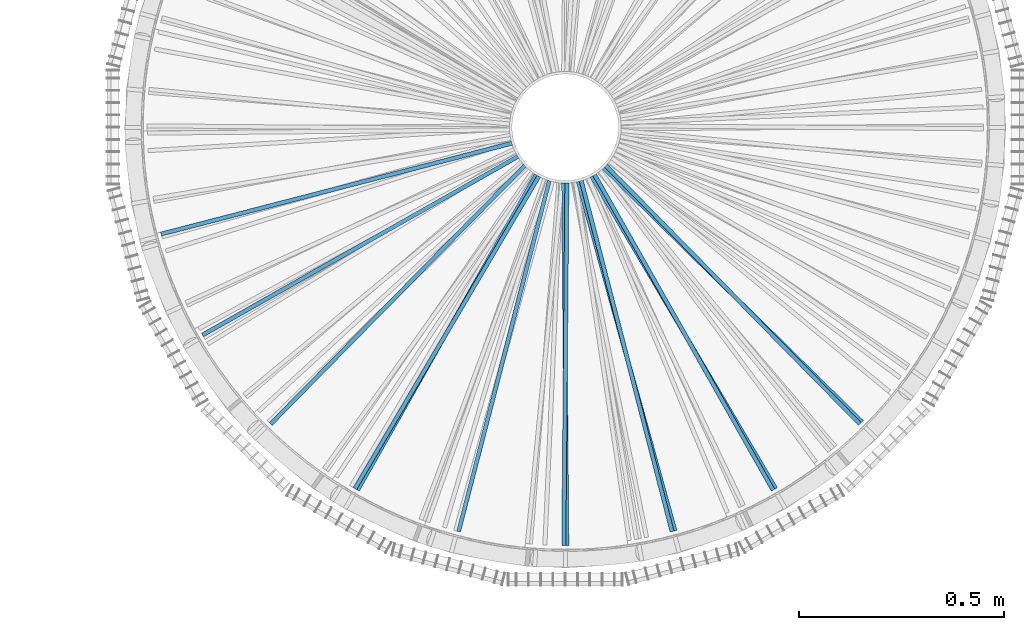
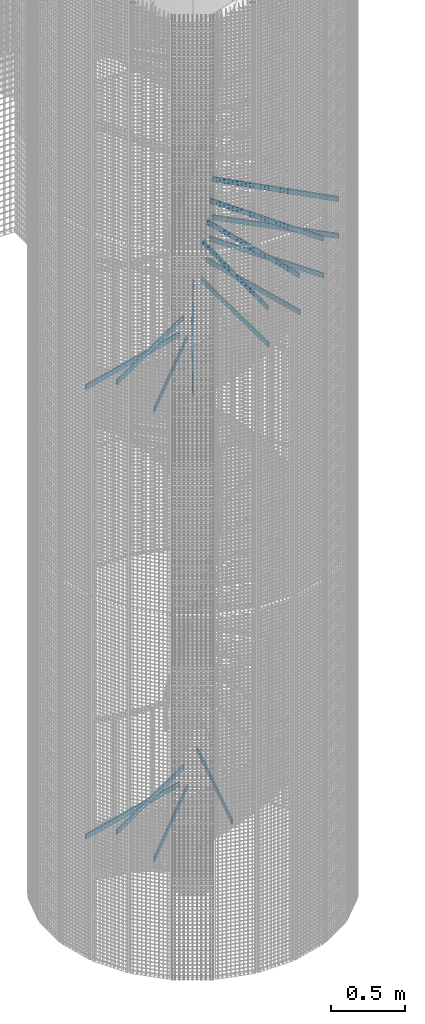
# One storey, part 179 of 1183: 17 beams, 1 element without a shape of its own.
"""IFC2X3 building model written with IfcOpenShell, lengths in millimetres."""

from ifc_helpers import new_model, si_unit, frame, origin_with_axes, origin_2d_with_axis, place, context, subcontext, project, spatial, polyline, rectangle, outline, extrude, boolean, material, type_object, element, aggregate, save


model = new_model("IFC2X3")

# Units and contexts
model_context = context("Model", 3, precision=1e-05, world=origin_with_axes())
body_context = subcontext(model_context, "Body", "Model", "MODEL_VIEW")
ifc_project = project(units=[si_unit("LENGTHUNIT", "METRE", prefix="MILLI"), si_unit("AREAUNIT", "SQUARE_METRE"), si_unit("VOLUMEUNIT", "CUBIC_METRE"), si_unit("MASSUNIT", "GRAM", prefix="KILO"), si_unit("TIMEUNIT", "SECOND"), si_unit("PLANEANGLEUNIT", "RADIAN"), si_unit("SOLIDANGLEUNIT", "STERADIAN"), si_unit("THERMODYNAMICTEMPERATUREUNIT", "DEGREE_CELSIUS"), si_unit("LUMINOUSINTENSITYUNIT", "LUMEN")], contexts=[model_context])

# Site, building, storey
site_placement = place(None, origin_with_axes())
site = spatial("IfcSite", under=ifc_project, at=site_placement, Name="Undefined", CompositionType="ELEMENT")
building_placement = place(site_placement, origin_with_axes())
building = spatial("IfcBuilding", under=site, at=building_placement, Name="Undefined", CompositionType="ELEMENT")
storey_placement = place(building_placement, origin_with_axes())
storey = spatial("IfcBuildingStorey", under=building, at=storey_placement, Name="Undefined", CompositionType="ELEMENT", Elevation=0.0)

# Assembly, beams
assembly_placement = place(storey_placement, origin_with_axes())
assembly = element("IfcElementAssembly", 1, at=assembly_placement, inside=storey, Name="POTEAU", AssemblyPlace="NOTDEFINED", PredefinedType="NOTDEFINED")
ifc_material = material(Name="STEEL/S235JR")
beam_type = type_object("IfcBeamType", Name="PL10*40", PredefinedType="NOTDEFINED")
beam_1_placement = place(assembly_placement, frame((-4.28918262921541, -83.9487882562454, 5075.16), z_axis=(0.0, 0.0, 1.0), x_axis=(0.00846910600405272, -0.99996413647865, 0.0)))
beam_1 = element("IfcBeam", 2, at=beam_1_placement, type_object=beam_type, material=ifc_material, Name="RAIDISSEUR", context=body_context, shape_type="CSG", body=[
    boolean("DIFFERENCE", extrude(rectangle(XDim=10.0, YDim=40.0, at=origin_2d_with_axis()), frame((935.982964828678, -2.59787459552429e-14, -3.63797880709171e-12), z_axis=(-1.0, 0.0, 0.0), x_axis=(0.0, -1.0, 0.0)), (0.0, 0.0, 1.0), 935.98), extrude(outline(polyline([(0.0, 0.0), (30.5663019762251, -4.91127138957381e-11), (60.366242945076, 6.80164206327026), (87.9055294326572, 20.0638634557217), (111.803226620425, 39.1216410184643), (130.861004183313, 63.0193382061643), (144.123225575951, 90.5586246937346), (150.9248676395, 120.358565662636), (150.924867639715, 150.924867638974), (144.123225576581, 180.724808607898), (130.86100418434, 208.264095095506), (111.803226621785, 232.161792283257), (87.9055294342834, 251.219569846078), (60.3662429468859, 264.481791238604), (30.5663019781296, 271.283433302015), (1.90266291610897e-09, 271.28343330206), (-29.7999409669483, 264.481791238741), (-57.3392274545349, 251.219569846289), (-81.2369246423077, 232.161792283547), (-100.294702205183, 208.26409509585), (-113.556923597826, 180.724808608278), (-120.35856566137, 150.92486763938), (-120.358565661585, 120.358565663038), (-113.556923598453, 90.5586246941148), (-100.294702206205, 63.0193382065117), (-81.2369246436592, 39.1216410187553), (-57.3392274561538, 20.0638634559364), (-29.7999409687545, 6.80164206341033), (0.0, 0.0)])), frame((-88.4680432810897, -131.423858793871, -22.5000000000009), z_axis=(0.0, 0.0, 1.0), x_axis=(0.996897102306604, 0.0787157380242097, 0.0)), (0.0, 0.0, 1.0), 45.0)),
])
beam_2_placement = place(assembly_placement, frame((4.28918262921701, -83.9487882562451, 5384.2), z_axis=(0.0, 0.0, 1.0), x_axis=(-0.00846910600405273, -0.99996413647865, 0.0)))
beam_2 = element("IfcBeam", 3, at=beam_2_placement, type_object=beam_type, material=ifc_material, Name="RAIDISSEUR", context=body_context, shape_type="CSG", body=[
    boolean("DIFFERENCE", extrude(rectangle(XDim=10.0, YDim=40.0, at=origin_2d_with_axis()), frame((935.982964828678, -2.59787459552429e-14, -3.63797880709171e-12), z_axis=(-1.0, 0.0, 0.0), x_axis=(0.0, -1.0, 0.0)), (0.0, 0.0, 1.0), 935.98), extrude(outline(polyline([(0.0, 0.0), (30.5663019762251, -4.91127138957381e-11), (60.366242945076, 6.80164206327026), (87.9055294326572, 20.0638634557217), (111.803226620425, 39.1216410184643), (130.861004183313, 63.0193382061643), (144.123225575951, 90.5586246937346), (150.9248676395, 120.358565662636), (150.924867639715, 150.924867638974), (144.123225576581, 180.724808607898), (130.86100418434, 208.264095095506), (111.803226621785, 232.161792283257), (87.9055294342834, 251.219569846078), (60.3662429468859, 264.481791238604), (30.5663019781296, 271.283433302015), (1.90266291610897e-09, 271.28343330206), (-29.7999409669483, 264.481791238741), (-57.3392274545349, 251.219569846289), (-81.2369246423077, 232.161792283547), (-100.294702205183, 208.26409509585), (-113.556923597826, 180.724808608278), (-120.35856566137, 150.92486763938), (-120.358565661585, 120.358565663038), (-113.556923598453, 90.5586246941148), (-100.294702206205, 63.0193382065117), (-81.2369246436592, 39.1216410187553), (-57.3392274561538, 20.0638634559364), (-29.7999409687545, 6.80164206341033), (0.0, 0.0)])), frame((-86.1566959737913, -141.48150018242, -22.4999999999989), z_axis=(0.0, 0.0, 1.0), x_axis=(0.995420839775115, 0.0955894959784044, 0.0)), (0.0, 0.0, 1.0), 45.0)),
])
beam_3_placement = place(assembly_placement, frame((-62.3936675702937, -56.3278473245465, 4611.6), z_axis=(0.0, 0.0, 1.0), x_axis=(-0.701092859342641, -0.713069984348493, 0.0)))
beam_3 = element("IfcBeam", 4, at=beam_3_placement, type_object=beam_type, material=ifc_material, Name="RAIDISSEUR", context=body_context, shape_type="CSG", body=[
    boolean("DIFFERENCE", extrude(rectangle(XDim=10.0, YDim=40.0, at=origin_2d_with_axis()), frame((935.982964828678, -2.59787459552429e-14, -3.63797880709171e-12), z_axis=(-1.0, 0.0, 0.0), x_axis=(0.0, -1.0, 0.0)), (0.0, 0.0, 1.0), 935.98), extrude(outline(polyline([(0.0, 0.0), (30.5663019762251, -4.91127138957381e-11), (60.366242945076, 6.80164206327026), (87.9055294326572, 20.0638634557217), (111.803226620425, 39.1216410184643), (130.861004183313, 63.0193382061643), (144.123225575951, 90.5586246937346), (150.9248676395, 120.358565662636), (150.924867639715, 150.924867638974), (144.123225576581, 180.724808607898), (130.86100418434, 208.264095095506), (111.803226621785, 232.161792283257), (87.9055294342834, 251.219569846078), (60.3662429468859, 264.481791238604), (30.5663019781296, 271.283433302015), (1.90266291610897e-09, 271.28343330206), (-29.7999409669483, 264.481791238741), (-57.3392274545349, 251.219569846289), (-81.2369246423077, 232.161792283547), (-100.294702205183, 208.26409509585), (-113.556923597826, 180.724808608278), (-120.35856566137, 150.92486763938), (-120.358565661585, 120.358565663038), (-113.556923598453, 90.5586246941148), (-100.294702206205, 63.0193382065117), (-81.2369246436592, 39.1216410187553), (-57.3392274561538, 20.0638634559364), (-29.7999409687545, 6.80164206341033), (0.0, 0.0)])), frame((9.33337282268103, -94.6896464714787, -22.5), z_axis=(0.0, 0.0, 1.0), x_axis=(0.649252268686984, 0.760573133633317, 0.0)), (0.0, 0.0, 1.0), 45.0)),
])
beam_4_placement = place(assembly_placement, frame((17.5845129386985, -82.1984248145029, 5229.68), z_axis=(0.0, 0.0, 1.0), x_axis=(0.266990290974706, -0.963699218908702, 0.0)))
beam_4 = element("IfcBeam", 5, at=beam_4_placement, type_object=beam_type, material=ifc_material, Name="RAIDISSEUR", context=body_context, shape_type="CSG", body=[
    boolean("DIFFERENCE", extrude(rectangle(XDim=10.0, YDim=40.0, at=origin_2d_with_axis()), frame((935.982964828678, -2.59787459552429e-14, -3.63797880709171e-12), z_axis=(-1.0, 0.0, 0.0), x_axis=(0.0, -1.0, 0.0)), (0.0, 0.0, 1.0), 935.98), extrude(outline(polyline([(0.0, 0.0), (30.5663019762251, -4.91127138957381e-11), (60.366242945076, 6.80164206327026), (87.9055294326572, 20.0638634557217), (111.803226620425, 39.1216410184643), (130.861004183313, 63.0193382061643), (144.123225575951, 90.5586246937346), (150.9248676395, 120.358565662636), (150.924867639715, 150.924867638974), (144.123225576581, 180.724808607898), (130.86100418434, 208.264095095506), (111.803226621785, 232.161792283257), (87.9055294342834, 251.219569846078), (60.3662429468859, 264.481791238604), (30.5663019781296, 271.283433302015), (1.90266291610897e-09, 271.28343330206), (-29.7999409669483, 264.481791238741), (-57.3392274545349, 251.219569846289), (-81.2369246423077, 232.161792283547), (-100.294702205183, 208.26409509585), (-113.556923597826, 180.724808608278), (-120.35856566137, 150.92486763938), (-120.358565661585, 120.358565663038), (-113.556923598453, 90.5586246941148), (-100.294702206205, 63.0193382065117), (-81.2369246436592, 39.1216410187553), (-57.3392274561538, 20.0638634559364), (-29.7999409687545, 6.80164206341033), (0.0, 0.0)])), frame((-123.621805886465, -125.595478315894, -22.5), z_axis=(0.0, 0.0, 1.0), x_axis=(0.983301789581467, -0.181982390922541, 0.0)), (0.0, 0.0, 1.0), 45.0)),
])
beam_5_placement = place(assembly_placement, frame((-70.5571919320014, -45.6889352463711, 4766.12), z_axis=(0.0, 0.0, 1.0), x_axis=(-0.870228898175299, -0.492647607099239, 0.0)))
beam_5 = element("IfcBeam", 6, at=beam_5_placement, type_object=beam_type, material=ifc_material, Name="RAIDISSEUR", context=body_context, shape_type="CSG", body=[
    boolean("DIFFERENCE", extrude(rectangle(XDim=10.0, YDim=40.0, at=origin_2d_with_axis()), frame((935.982964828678, -2.59787459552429e-14, -3.63797880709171e-12), z_axis=(-1.0, 0.0, 0.0), x_axis=(0.0, -1.0, 0.0)), (0.0, 0.0, 1.0), 935.98), extrude(outline(polyline([(0.0, 0.0), (30.5663019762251, -4.91127138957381e-11), (60.366242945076, 6.80164206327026), (87.9055294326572, 20.0638634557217), (111.803226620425, 39.1216410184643), (130.861004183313, 63.0193382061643), (144.123225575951, 90.5586246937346), (150.9248676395, 120.358565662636), (150.924867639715, 150.924867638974), (144.123225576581, 180.724808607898), (130.86100418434, 208.264095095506), (111.803226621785, 232.161792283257), (87.9055294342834, 251.219569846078), (60.3662429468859, 264.481791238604), (30.5663019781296, 271.283433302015), (1.90266291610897e-09, 271.28343330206), (-29.7999409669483, 264.481791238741), (-57.3392274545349, 251.219569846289), (-81.2369246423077, 232.161792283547), (-100.294702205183, 208.26409509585), (-113.556923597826, 180.724808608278), (-120.35856566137, 150.92486763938), (-120.358565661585, 120.358565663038), (-113.556923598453, 90.5586246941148), (-100.294702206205, 63.0193382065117), (-81.2369246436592, 39.1216410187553), (-57.3392274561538, 20.0638634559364), (-29.7999409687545, 6.80164206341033), (0.0, 0.0)])), frame((33.1633723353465, -75.1869204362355, -22.5), z_axis=(0.0, 0.0, 1.0), x_axis=(0.414927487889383, 0.909854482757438, 0.0)), (0.0, 0.0, 1.0), 45.0)),
])
beam_6_placement = place(assembly_placement, frame((-79.9781805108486, -25.870577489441, 903.12), z_axis=(0.0, 0.0, 1.0), x_axis=(-0.968083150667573, -0.250629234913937, 0.0)))
beam_6 = element("IfcBeam", 7, at=beam_6_placement, type_object=beam_type, material=ifc_material, Name="RAIDISSEUR", context=body_context, shape_type="CSG", body=[
    boolean("DIFFERENCE", extrude(rectangle(XDim=10.0, YDim=40.0, at=origin_2d_with_axis()), frame((935.982964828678, -2.59787459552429e-14, -3.63797880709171e-12), z_axis=(-1.0, 0.0, 0.0), x_axis=(0.0, -1.0, 0.0)), (0.0, 0.0, 1.0), 935.98), extrude(outline(polyline([(0.0, 0.0), (30.5663019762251, -4.91127138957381e-11), (60.366242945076, 6.80164206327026), (87.9055294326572, 20.0638634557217), (111.803226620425, 39.1216410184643), (130.861004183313, 63.0193382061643), (144.123225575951, 90.5586246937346), (150.9248676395, 120.358565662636), (150.924867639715, 150.924867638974), (144.123225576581, 180.724808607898), (130.86100418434, 208.264095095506), (111.803226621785, 232.161792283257), (87.9055294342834, 251.219569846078), (60.3662429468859, 264.481791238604), (30.5663019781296, 271.283433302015), (1.90266291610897e-09, 271.28343330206), (-29.7999409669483, 264.481791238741), (-57.3392274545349, 251.219569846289), (-81.2369246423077, 232.161792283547), (-100.294702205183, 208.26409509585), (-113.556923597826, 180.724808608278), (-120.35856566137, 150.92486763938), (-120.358565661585, 120.358565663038), (-113.556923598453, 90.5586246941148), (-100.294702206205, 63.0193382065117), (-81.2369246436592, 39.1216410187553), (-57.3392274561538, 20.0638634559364), (-29.7999409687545, 6.80164206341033), (0.0, 0.0)])), frame((47.3399242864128, -42.4946825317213, -22.4999999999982), z_axis=(0.0, 0.0, 1.0), x_axis=(0.165301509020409, 0.986243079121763, 0.0)), (0.0, 0.0, 1.0), 45.0)),
])
beam_7_placement = place(assembly_placement, frame((-70.5571919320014, -45.6889352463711, 1057.64), z_axis=(0.0, 0.0, 1.0), x_axis=(-0.870228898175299, -0.492647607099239, 0.0)))
beam_7 = element("IfcBeam", 8, at=beam_7_placement, type_object=beam_type, material=ifc_material, Name="RAIDISSEUR", context=body_context, shape_type="CSG", body=[
    boolean("DIFFERENCE", extrude(rectangle(XDim=10.0, YDim=40.0, at=origin_2d_with_axis()), frame((935.982964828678, -2.59787459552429e-14, -3.63797880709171e-12), z_axis=(-1.0, 0.0, 0.0), x_axis=(0.0, -1.0, 0.0)), (0.0, 0.0, 1.0), 935.98), extrude(outline(polyline([(0.0, 0.0), (30.5663019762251, -4.91127138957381e-11), (60.366242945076, 6.80164206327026), (87.9055294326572, 20.0638634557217), (111.803226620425, 39.1216410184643), (130.861004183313, 63.0193382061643), (144.123225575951, 90.5586246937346), (150.9248676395, 120.358565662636), (150.924867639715, 150.924867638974), (144.123225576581, 180.724808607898), (130.86100418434, 208.264095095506), (111.803226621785, 232.161792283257), (87.9055294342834, 251.219569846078), (60.3662429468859, 264.481791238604), (30.5663019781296, 271.283433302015), (1.90266291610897e-09, 271.28343330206), (-29.7999409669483, 264.481791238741), (-57.3392274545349, 251.219569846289), (-81.2369246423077, 232.161792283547), (-100.294702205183, 208.26409509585), (-113.556923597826, 180.724808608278), (-120.35856566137, 150.92486763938), (-120.358565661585, 120.358565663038), (-113.556923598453, 90.5586246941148), (-100.294702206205, 63.0193382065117), (-81.2369246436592, 39.1216410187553), (-57.3392274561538, 20.0638634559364), (-29.7999409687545, 6.80164206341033), (0.0, 0.0)])), frame((33.1633723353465, -75.1869204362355, -22.5), z_axis=(0.0, 0.0, 1.0), x_axis=(0.414927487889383, 0.909854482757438, 0.0)), (0.0, 0.0, 1.0), 45.0)),
])
beam_8_placement = place(assembly_placement, frame((-25.8705774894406, -79.978180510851, 1212.16), z_axis=(0.0, 0.0, 1.0), x_axis=(-0.250629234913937, -0.968083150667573, 0.0)))
beam_8 = element("IfcBeam", 9, at=beam_8_placement, type_object=beam_type, material=ifc_material, Name="RAIDISSEUR", context=body_context, shape_type="CSG", body=[
    boolean("DIFFERENCE", extrude(rectangle(XDim=10.0, YDim=40.0, at=origin_2d_with_axis()), frame((935.982964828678, -2.59787459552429e-14, -3.63797880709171e-12), z_axis=(-1.0, 0.0, 0.0), x_axis=(0.0, -1.0, 0.0)), (0.0, 0.0, 1.0), 935.98), extrude(outline(polyline([(0.0, 0.0), (30.5663019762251, -4.91127138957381e-11), (60.366242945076, 6.80164206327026), (87.9055294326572, 20.0638634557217), (111.803226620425, 39.1216410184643), (130.861004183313, 63.0193382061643), (144.123225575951, 90.5586246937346), (150.9248676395, 120.358565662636), (150.924867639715, 150.924867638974), (144.123225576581, 180.724808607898), (130.86100418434, 208.264095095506), (111.803226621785, 232.161792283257), (87.9055294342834, 251.219569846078), (60.3662429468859, 264.481791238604), (30.5663019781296, 271.283433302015), (1.90266291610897e-09, 271.28343330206), (-29.7999409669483, 264.481791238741), (-57.3392274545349, 251.219569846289), (-81.2369246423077, 232.161792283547), (-100.294702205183, 208.26409509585), (-113.556923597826, 180.724808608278), (-120.35856566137, 150.92486763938), (-120.358565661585, 120.358565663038), (-113.556923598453, 90.5586246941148), (-100.294702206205, 63.0193382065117), (-81.2369246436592, 39.1216410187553), (-57.3392274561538, 20.0638634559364), (-29.7999409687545, 6.80164206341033), (0.0, 0.0)])), frame((-53.0036201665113, -127.955178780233, -22.5), z_axis=(0.0, 0.0, 1.0), x_axis=(0.942555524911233, 0.33404952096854, 0.0)), (0.0, 0.0, 1.0), 45.0)),
])
beam_9_placement = place(assembly_placement, frame((56.3278473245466, -62.3936675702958, 5538.72), z_axis=(0.0, 0.0, 1.0), x_axis=(0.713069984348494, -0.70109285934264, 0.0)))
beam_9 = element("IfcBeam", 10, at=beam_9_placement, type_object=beam_type, material=ifc_material, Name="RAIDISSEUR", context=body_context, shape_type="CSG", body=[
    boolean("DIFFERENCE", extrude(rectangle(XDim=10.0, YDim=40.0, at=origin_2d_with_axis()), frame((935.982964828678, -2.59787459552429e-14, -3.63797880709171e-12), z_axis=(-1.0, 0.0, 0.0), x_axis=(0.0, -1.0, 0.0)), (0.0, 0.0, 1.0), 935.98), extrude(outline(polyline([(0.0, 0.0), (30.5663019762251, -4.91127138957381e-11), (60.366242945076, 6.80164206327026), (87.9055294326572, 20.0638634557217), (111.803226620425, 39.1216410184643), (130.861004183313, 63.0193382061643), (144.123225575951, 90.5586246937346), (150.9248676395, 120.358565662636), (150.924867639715, 150.924867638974), (144.123225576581, 180.724808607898), (130.86100418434, 208.264095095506), (111.803226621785, 232.161792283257), (87.9055294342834, 251.219569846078), (60.3662429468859, 264.481791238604), (30.5663019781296, 271.283433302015), (1.90266291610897e-09, 271.28343330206), (-29.7999409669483, 264.481791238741), (-57.3392274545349, 251.219569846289), (-81.2369246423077, 232.161792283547), (-100.294702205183, 208.26409509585), (-113.556923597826, 180.724808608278), (-120.35856566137, 150.92486763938), (-120.358565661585, 120.358565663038), (-113.556923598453, 90.5586246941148), (-100.294702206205, 63.0193382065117), (-81.2369246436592, 39.1216410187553), (-57.3392274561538, 20.0638634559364), (-29.7999409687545, 6.80164206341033), (0.0, 0.0)])), frame((-183.599098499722, -88.2428248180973, -22.5), z_axis=(0.0, 0.0, 1.0), x_axis=(0.760573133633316, -0.649252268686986, 0.0)), (0.0, 0.0, 1.0), 45.0)),
])
beam_10_placement = place(assembly_placement, frame((-79.9781805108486, -25.8705774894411, 4611.6), z_axis=(0.0, 0.0, 1.0), x_axis=(-0.968083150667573, -0.250629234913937, 0.0)))
beam_10 = element("IfcBeam", 11, at=beam_10_placement, type_object=beam_type, material=ifc_material, Name="RAIDISSEUR", context=body_context, shape_type="CSG", body=[
    boolean("DIFFERENCE", extrude(rectangle(XDim=10.0, YDim=40.0, at=origin_2d_with_axis()), frame((935.982964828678, -2.59787459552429e-14, -3.63797880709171e-12), z_axis=(-1.0, 0.0, 0.0), x_axis=(0.0, -1.0, 0.0)), (0.0, 0.0, 1.0), 935.98), extrude(outline(polyline([(0.0, 0.0), (30.5663019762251, -4.91127138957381e-11), (60.366242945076, 6.80164206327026), (87.9055294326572, 20.0638634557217), (111.803226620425, 39.1216410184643), (130.861004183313, 63.0193382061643), (144.123225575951, 90.5586246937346), (150.9248676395, 120.358565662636), (150.924867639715, 150.924867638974), (144.123225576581, 180.724808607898), (130.86100418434, 208.264095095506), (111.803226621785, 232.161792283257), (87.9055294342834, 251.219569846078), (60.3662429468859, 264.481791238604), (30.5663019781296, 271.283433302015), (1.90266291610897e-09, 271.28343330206), (-29.7999409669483, 264.481791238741), (-57.3392274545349, 251.219569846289), (-81.2369246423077, 232.161792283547), (-100.294702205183, 208.26409509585), (-113.556923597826, 180.724808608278), (-120.35856566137, 150.92486763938), (-120.358565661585, 120.358565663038), (-113.556923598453, 90.5586246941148), (-100.294702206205, 63.0193382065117), (-81.2369246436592, 39.1216410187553), (-57.3392274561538, 20.0638634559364), (-29.7999409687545, 6.80164206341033), (0.0, 0.0)])), frame((47.3399242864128, -42.4946825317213, -22.4999999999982), z_axis=(0.0, 0.0, 1.0), x_axis=(0.165301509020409, 0.986243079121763, 0.0)), (0.0, 0.0, 1.0), 45.0)),
])
beam_11_placement = place(assembly_placement, frame((38.2598530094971, -74.8463745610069, 5384.2), z_axis=(0.0, 0.0, 1.0), x_axis=(0.507316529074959, -0.861759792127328, 0.0)))
beam_11 = element("IfcBeam", 12, at=beam_11_placement, type_object=beam_type, material=ifc_material, Name="RAIDISSEUR", context=body_context, shape_type="CSG", body=[
    boolean("DIFFERENCE", extrude(rectangle(XDim=10.0, YDim=40.0, at=origin_2d_with_axis()), frame((935.982964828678, -2.59787459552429e-14, -3.63797880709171e-12), z_axis=(-1.0, 0.0, 0.0), x_axis=(0.0, -1.0, 0.0)), (0.0, 0.0, 1.0), 935.98), extrude(outline(polyline([(0.0, 0.0), (30.5663019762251, -4.91127138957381e-11), (60.366242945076, 6.80164206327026), (87.9055294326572, 20.0638634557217), (111.803226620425, 39.1216410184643), (130.861004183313, 63.0193382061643), (144.123225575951, 90.5586246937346), (150.9248676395, 120.358565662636), (150.924867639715, 150.924867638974), (144.123225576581, 180.724808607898), (130.86100418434, 208.264095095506), (111.803226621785, 232.161792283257), (87.9055294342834, 251.219569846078), (60.3662429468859, 264.481791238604), (30.5663019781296, 271.283433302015), (1.90266291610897e-09, 271.28343330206), (-29.7999409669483, 264.481791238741), (-57.3392274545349, 251.219569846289), (-81.2369246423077, 232.161792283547), (-100.294702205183, 208.26409509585), (-113.556923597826, 180.724808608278), (-120.35856566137, 150.92486763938), (-120.358565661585, 120.358565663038), (-113.556923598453, 90.5586246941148), (-100.294702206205, 63.0193382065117), (-81.2369246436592, 39.1216410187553), (-57.3392274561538, 20.0638634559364), (-29.7999409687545, 6.80164206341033), (0.0, 0.0)])), frame((-156.069237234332, -110.867231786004, -22.5), z_axis=(0.0, 0.0, 1.0), x_axis=(0.902696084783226, -0.430278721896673, 0.0)), (0.0, 0.0, 1.0), 45.0)),
])
beam_12_placement = place(assembly_placement, frame((-38.2598530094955, -74.8463745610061, 5075.16), z_axis=(0.0, 0.0, 1.0), x_axis=(-0.50731652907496, -0.861759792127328, 0.0)))
beam_12 = element("IfcBeam", 13, at=beam_12_placement, type_object=beam_type, material=ifc_material, Name="RAIDISSEUR", context=body_context, shape_type="CSG", body=[
    boolean("DIFFERENCE", extrude(rectangle(XDim=10.0, YDim=40.0, at=origin_2d_with_axis()), frame((935.982964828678, -2.59787459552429e-14, -3.63797880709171e-12), z_axis=(-1.0, 0.0, 0.0), x_axis=(0.0, -1.0, 0.0)), (0.0, 0.0, 1.0), 935.98), extrude(outline(polyline([(0.0, 0.0), (30.5663019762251, -4.91127138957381e-11), (60.366242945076, 6.80164206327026), (87.9055294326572, 20.0638634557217), (111.803226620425, 39.1216410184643), (130.861004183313, 63.0193382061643), (144.123225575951, 90.5586246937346), (150.9248676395, 120.358565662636), (150.924867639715, 150.924867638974), (144.123225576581, 180.724808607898), (130.86100418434, 208.264095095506), (111.803226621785, 232.161792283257), (87.9055294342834, 251.219569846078), (60.3662429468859, 264.481791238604), (30.5663019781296, 271.283433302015), (1.90266291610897e-09, 271.28343330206), (-29.7999409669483, 264.481791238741), (-57.3392274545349, 251.219569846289), (-81.2369246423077, 232.161792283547), (-100.294702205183, 208.26409509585), (-113.556923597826, 180.724808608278), (-120.35856566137, 150.92486763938), (-120.358565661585, 120.358565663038), (-113.556923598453, 90.5586246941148), (-100.294702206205, 63.0193382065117), (-81.2369246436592, 39.1216410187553), (-57.3392274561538, 20.0638634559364), (-29.7999409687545, 6.80164206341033), (0.0, 0.0)])), frame((-17.6148722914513, -124.320068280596, -22.5), z_axis=(0.0, 0.0, 1.0), x_axis=(0.814264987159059, 0.580493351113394, 0.0)), (0.0, 0.0, 1.0), 45.0)),
])
beam_13_placement = place(assembly_placement, frame((-62.3936675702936, -56.3278473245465, 903.12), z_axis=(0.0, 0.0, 1.0), x_axis=(-0.701092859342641, -0.713069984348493, 0.0)))
beam_13 = element("IfcBeam", 14, at=beam_13_placement, type_object=beam_type, material=ifc_material, Name="RAIDISSEUR", context=body_context, shape_type="CSG", body=[
    boolean("DIFFERENCE", extrude(rectangle(XDim=10.0, YDim=40.0, at=origin_2d_with_axis()), frame((935.982964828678, -2.59787459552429e-14, -3.63797880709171e-12), z_axis=(-1.0, 0.0, 0.0), x_axis=(0.0, -1.0, 0.0)), (0.0, 0.0, 1.0), 935.98), extrude(outline(polyline([(0.0, 0.0), (30.5663019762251, -4.91127138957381e-11), (60.366242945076, 6.80164206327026), (87.9055294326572, 20.0638634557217), (111.803226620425, 39.1216410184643), (130.861004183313, 63.0193382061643), (144.123225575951, 90.5586246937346), (150.9248676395, 120.358565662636), (150.924867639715, 150.924867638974), (144.123225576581, 180.724808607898), (130.86100418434, 208.264095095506), (111.803226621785, 232.161792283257), (87.9055294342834, 251.219569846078), (60.3662429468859, 264.481791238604), (30.5663019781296, 271.283433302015), (1.90266291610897e-09, 271.28343330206), (-29.7999409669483, 264.481791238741), (-57.3392274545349, 251.219569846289), (-81.2369246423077, 232.161792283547), (-100.294702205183, 208.26409509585), (-113.556923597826, 180.724808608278), (-120.35856566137, 150.92486763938), (-120.358565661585, 120.358565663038), (-113.556923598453, 90.5586246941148), (-100.294702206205, 63.0193382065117), (-81.2369246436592, 39.1216410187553), (-57.3392274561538, 20.0638634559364), (-29.7999409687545, 6.80164206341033), (0.0, 0.0)])), frame((9.33337282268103, -94.6896464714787, -22.5), z_axis=(0.0, 0.0, 1.0), x_axis=(0.649252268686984, 0.760573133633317, 0.0)), (0.0, 0.0, 1.0), 45.0)),
])
beam_14_placement = place(assembly_placement, frame((45.6889352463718, -70.5571919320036, 5693.24), z_axis=(0.0, 0.0, 1.0), x_axis=(0.492647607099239, -0.870228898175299, 0.0)))
beam_14 = element("IfcBeam", 15, at=beam_14_placement, type_object=beam_type, material=ifc_material, Name="RAIDISSEUR", context=body_context, shape_type="CSG", body=[
    boolean("DIFFERENCE", extrude(rectangle(XDim=10.0, YDim=40.0, at=origin_2d_with_axis()), frame((935.982964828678, -2.59787459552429e-14, -3.63797880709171e-12), z_axis=(-1.0, 0.0, 0.0), x_axis=(0.0, -1.0, 0.0)), (0.0, 0.0, 1.0), 935.98), extrude(outline(polyline([(0.0, 0.0), (30.5663019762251, -4.91127138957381e-11), (60.366242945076, 6.80164206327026), (87.9055294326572, 20.0638634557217), (111.803226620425, 39.1216410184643), (130.861004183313, 63.0193382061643), (144.123225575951, 90.5586246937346), (150.9248676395, 120.358565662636), (150.924867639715, 150.924867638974), (144.123225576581, 180.724808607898), (130.86100418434, 208.264095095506), (111.803226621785, 232.161792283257), (87.9055294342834, 251.219569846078), (60.3662429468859, 264.481791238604), (30.5663019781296, 271.283433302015), (1.90266291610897e-09, 271.28343330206), (-29.7999409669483, 264.481791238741), (-57.3392274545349, 251.219569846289), (-81.2369246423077, 232.161792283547), (-100.294702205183, 208.26409509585), (-113.556923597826, 180.724808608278), (-120.35856566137, 150.92486763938), (-120.358565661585, 120.358565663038), (-113.556923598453, 90.5586246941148), (-100.294702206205, 63.0193382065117), (-81.2369246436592, 39.1216410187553), (-57.3392274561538, 20.0638634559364), (-29.7999409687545, 6.80164206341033), (0.0, 0.0)])), frame((-154.096372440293, -122.072824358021, -22.5000000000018), z_axis=(0.0, 0.0, 1.0), x_axis=(0.909854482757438, -0.414927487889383, 0.0)), (0.0, 0.0, 1.0), 45.0)),
])
beam_15_placement = place(assembly_placement, frame((-45.6889352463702, -70.5571919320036, 4766.12), z_axis=(0.0, 0.0, 1.0), x_axis=(-0.492647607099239, -0.870228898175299, 0.0)))
beam_15 = element("IfcBeam", 16, at=beam_15_placement, type_object=beam_type, material=ifc_material, Name="RAIDISSEUR", context=body_context, shape_type="CSG", body=[
    boolean("DIFFERENCE", extrude(rectangle(XDim=10.0, YDim=40.0, at=origin_2d_with_axis()), frame((935.982964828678, -2.59787459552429e-14, -3.63797880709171e-12), z_axis=(-1.0, 0.0, 0.0), x_axis=(0.0, -1.0, 0.0)), (0.0, 0.0, 1.0), 935.98), extrude(outline(polyline([(0.0, 0.0), (30.5663019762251, -4.91127138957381e-11), (60.366242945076, 6.80164206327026), (87.9055294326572, 20.0638634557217), (111.803226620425, 39.1216410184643), (130.861004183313, 63.0193382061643), (144.123225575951, 90.5586246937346), (150.9248676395, 120.358565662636), (150.924867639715, 150.924867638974), (144.123225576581, 180.724808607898), (130.86100418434, 208.264095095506), (111.803226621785, 232.161792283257), (87.9055294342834, 251.219569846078), (60.3662429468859, 264.481791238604), (30.5663019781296, 271.283433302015), (1.90266291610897e-09, 271.28343330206), (-29.7999409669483, 264.481791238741), (-57.3392274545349, 251.219569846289), (-81.2369246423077, 232.161792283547), (-100.294702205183, 208.26409509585), (-113.556923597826, 180.724808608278), (-120.35856566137, 150.92486763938), (-120.358565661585, 120.358565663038), (-113.556923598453, 90.5586246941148), (-100.294702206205, 63.0193382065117), (-81.2369246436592, 39.1216410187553), (-57.3392274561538, 20.0638634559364), (-29.7999409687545, 6.80164206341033), (0.0, 0.0)])), frame((-19.6453784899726, -115.425823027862, -22.5), z_axis=(0.0, 0.0, 1.0), x_axis=(0.823980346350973, 0.56661838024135, 0.0)), (0.0, 0.0, 1.0), 45.0)),
])
beam_16_placement = place(assembly_placement, frame((25.8705774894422, -79.9781805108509, 5538.72), z_axis=(0.0, 0.0, 1.0), x_axis=(0.250629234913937, -0.968083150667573, 0.0)))
beam_16 = element("IfcBeam", 17, at=beam_16_placement, type_object=beam_type, material=ifc_material, Name="RAIDISSEUR", context=body_context, shape_type="CSG", body=[
    boolean("DIFFERENCE", extrude(rectangle(XDim=10.0, YDim=40.0, at=origin_2d_with_axis()), frame((935.982964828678, -2.59787459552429e-14, -3.63797880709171e-12), z_axis=(-1.0, 0.0, 0.0), x_axis=(0.0, -1.0, 0.0)), (0.0, 0.0, 1.0), 935.98), extrude(outline(polyline([(0.0, 0.0), (30.5663019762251, -4.91127138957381e-11), (60.366242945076, 6.80164206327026), (87.9055294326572, 20.0638634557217), (111.803226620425, 39.1216410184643), (130.861004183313, 63.0193382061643), (144.123225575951, 90.5586246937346), (150.9248676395, 120.358565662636), (150.924867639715, 150.924867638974), (144.123225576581, 180.724808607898), (130.86100418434, 208.264095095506), (111.803226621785, 232.161792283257), (87.9055294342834, 251.219569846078), (60.3662429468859, 264.481791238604), (30.5663019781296, 271.283433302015), (1.90266291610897e-09, 271.28343330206), (-29.7999409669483, 264.481791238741), (-57.3392274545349, 251.219569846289), (-81.2369246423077, 232.161792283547), (-100.294702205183, 208.26409509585), (-113.556923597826, 180.724808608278), (-120.35856566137, 150.92486763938), (-120.358565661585, 120.358565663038), (-113.556923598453, 90.5586246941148), (-100.294702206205, 63.0193382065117), (-81.2369246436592, 39.1216410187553), (-57.3392274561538, 20.0638634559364), (-29.7999409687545, 6.80164206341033), (0.0, 0.0)])), frame((-121.404134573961, -136.249376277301, -22.5), z_axis=(0.0, 0.0, 1.0), x_axis=(0.986243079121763, -0.165301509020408, 0.0)), (0.0, 0.0, 1.0), 45.0)),
])
beam_17_placement = place(assembly_placement, frame((62.3936675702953, -56.3278473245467, 5847.76), z_axis=(0.0, 0.0, 1.0), x_axis=(0.701092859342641, -0.713069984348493, 0.0)))
beam_17 = element("IfcBeam", 18, at=beam_17_placement, type_object=beam_type, material=ifc_material, Name="RAIDISSEUR", context=body_context, shape_type="CSG", body=[
    boolean("DIFFERENCE", extrude(rectangle(XDim=10.0, YDim=40.0, at=origin_2d_with_axis()), frame((935.982964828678, -2.59787459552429e-14, -3.63797880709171e-12), z_axis=(-1.0, 0.0, 0.0), x_axis=(0.0, -1.0, 0.0)), (0.0, 0.0, 1.0), 935.98), extrude(outline(polyline([(0.0, 0.0), (30.5663019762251, -4.91127138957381e-11), (60.366242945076, 6.80164206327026), (87.9055294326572, 20.0638634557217), (111.803226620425, 39.1216410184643), (130.861004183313, 63.0193382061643), (144.123225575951, 90.5586246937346), (150.9248676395, 120.358565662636), (150.924867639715, 150.924867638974), (144.123225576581, 180.724808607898), (130.86100418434, 208.264095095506), (111.803226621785, 232.161792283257), (87.9055294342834, 251.219569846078), (60.3662429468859, 264.481791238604), (30.5663019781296, 271.283433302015), (1.90266291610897e-09, 271.28343330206), (-29.7999409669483, 264.481791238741), (-57.3392274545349, 251.219569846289), (-81.2369246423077, 232.161792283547), (-100.294702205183, 208.26409509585), (-113.556923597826, 180.724808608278), (-120.35856566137, 150.92486763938), (-120.358565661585, 120.358565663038), (-113.556923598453, 90.5586246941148), (-100.294702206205, 63.0193382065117), (-81.2369246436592, 39.1216410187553), (-57.3392274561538, 20.0638634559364), (-29.7999409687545, 6.80164206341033), (0.0, 0.0)])), frame((-182.005487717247, -99.9179528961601, -22.5), z_axis=(0.0, 0.0, 1.0), x_axis=(0.771460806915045, -0.636276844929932, 0.0)), (0.0, 0.0, 1.0), 45.0)),
])
aggregate(assembly, [beam_1, beam_2, beam_3, beam_4, beam_5, beam_6, beam_7, beam_8, beam_9, beam_10, beam_11, beam_12, beam_13, beam_14, beam_15, beam_16, beam_17])

save(model, "model.ifc")
